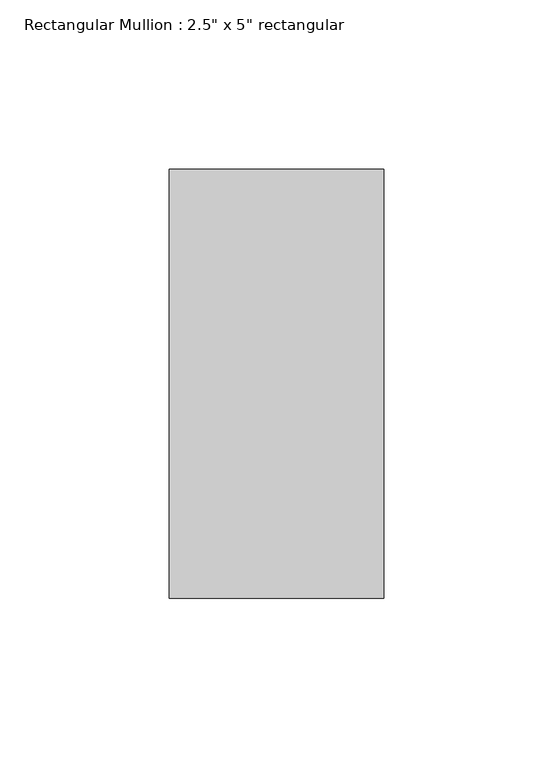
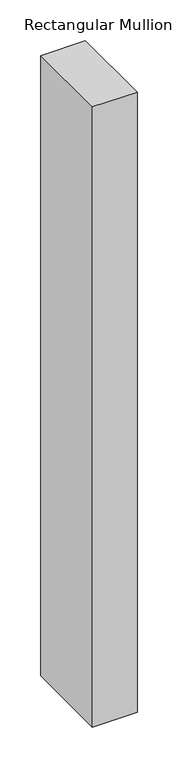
"""IFC4 building model written with IfcOpenShell, lengths in millimetres: member geometry."""

from ifc_helpers import new_model, si_unit, frame, origin, place, context, project, spatial, polyline, outline, extrude, source, transform, mapped, element, save


def member_bae23aee(model_context):
    return source(origin(), model_context, "Body", "SweptSolid", [
        extrude(outline(polyline([(0.0, 50.8), (0.0, -76.2), (-63.5, -76.2), (-63.5, 50.8), (0.0, 50.8)])), frame((0.0, 0.0, -930.275), z_axis=(0.0, 0.0, 1.0), x_axis=(1.0, 0.0, 0.0)), (0.0, 0.0, 1.0), 930.275),
    ])


if __name__ == "__main__":
    model = new_model("IFC4")
    model_context = context("Model", 3, world=origin())
    ifc_project = project(units=[si_unit("LENGTHUNIT", "METRE", prefix="MILLI")], contexts=[model_context])
    site = spatial("IfcSite", under=ifc_project)
    building = spatial("IfcBuilding", under=site)
    placement = place(None, origin())
    member_shape = member_bae23aee(model_context)
    element("IfcMember", 1, ObjectType="Rectangular Mullion : 2.5\" x 5\" rectangular", at=placement, inside=building, context=model_context, shape_type="MappedRepresentation", body=[
        mapped(member_shape, transform((0.0, 0.0, 0.0), x_axis=(1.0, 0.0, 0.0), y_axis=(0.0, 1.0, 0.0), z_axis=(0.0, 0.0, 1.0))),
    ])
    save(model, "model.ifc")
